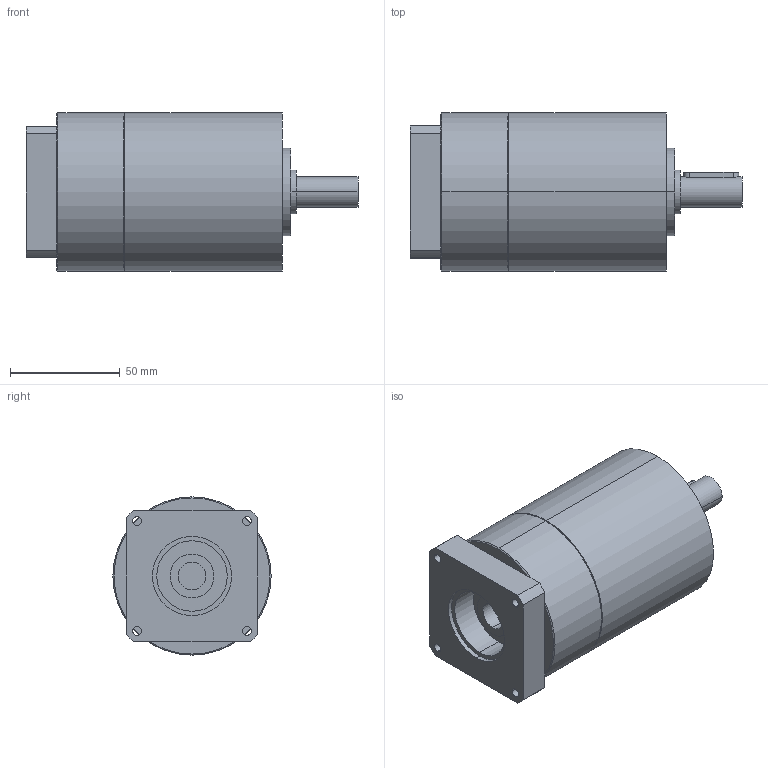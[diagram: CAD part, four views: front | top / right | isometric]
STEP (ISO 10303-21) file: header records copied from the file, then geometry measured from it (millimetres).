
FILE_DESCRIPTION(('CoCreate Modeling STEP Export'),'2;1');
FILE_NAME('GPT75_ig-9-12-16-20-25-28-35-40-50-70-100_14_B14T_12.7_P35.stp','2014-08-27T13:15:55',(''),(''),'CoCreate Modeling STEP processor for AP214 (Solid Model)','CoCreate Modeling 16.00C 25-Feb-2009 (C) Parametric Technology GmbH','');
FILE_SCHEMA(('AUTOMOTIVE_DESIGN { 1 0 10303 214 1 1 1 1 }'));
Length unit declared in the file: millimetre
Products named in the file (2): GPT75_ig-9-12-16-20-25-28-35-40-50-70-100_14_B14T_12.7_P35
Assembly tree (1 placements, depth 2):
  GPT75_ig-9-12-16-20-25-28-35-40-50-70-100_14_B14T_12.7_P35
    GPT75_ig-9-12-16-20-25-28-35-40-50-70-100_14_B14T_12.7_P35
Bounding box: 151 x 72 x 72 mm (x, y, z)
Volume: 461349.5 mm3; surface area: 41454.6 mm2
Topology: 1 solids, 1 shells, 80 faces, 198 edges, 129 vertices
Faces by surface type: cylinder 42, plane 34, cone 4
Entity records: 2353 total; most frequent: CARTESIAN_POINT 689, ORIENTED_EDGE 396, DIRECTION 276, EDGE_CURVE 198, VERTEX_POINT 129, AXIS2_PLACEMENT_3D 104, EDGE_LOOP 97, FACE_OUTER_BOUND 80
